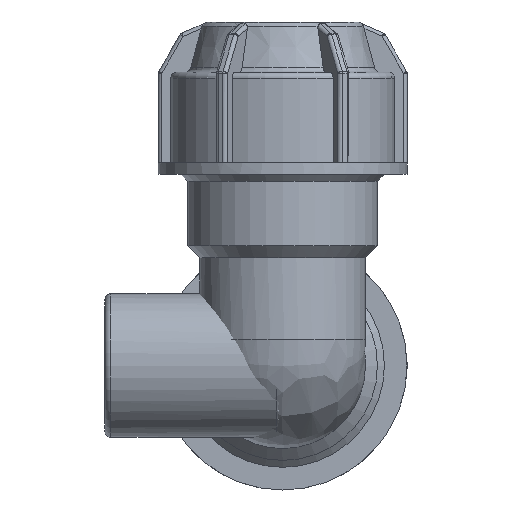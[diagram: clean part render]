
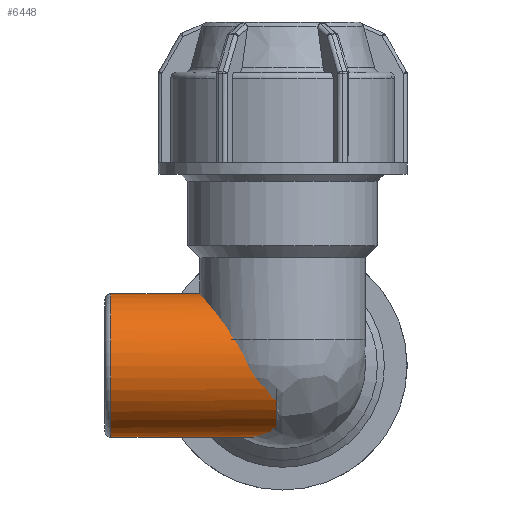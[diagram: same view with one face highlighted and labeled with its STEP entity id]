
A CAD part, left-side view. The second image highlights one B-rep face of the part: STEP entity #6448.
In plain terms, the highlighted cylindrical face has radius 12.11 mm (diameter 24.22 mm), a full revolution.
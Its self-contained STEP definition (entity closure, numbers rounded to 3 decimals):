
#1099=FACE_BOUND('',#1969,.T.);
#1517=FACE_OUTER_BOUND('',#1968,.T.);
#1968=EDGE_LOOP('',(#5889,#5890,#5891));
#1969=EDGE_LOOP('',(#5892));
#2326=CIRCLE('',#7217,12.11);
#2328=CIRCLE('',#7220,12.11);
#2522=B_SPLINE_CURVE_WITH_KNOTS('',3,(#12390,#12391,#12392,#12393,#12394,
#12395,#12396,#12397,#12398,#12399,#12400,#12401,#12402,#12403,#12404,#12405,
#12406,#12407,#12408,#12409),.UNSPECIFIED.,.F.,.F.,(4,2,2,2,2,2,2,2,2,4),
(2.911,2.988,3.165,3.52,3.868,
4.216,4.564,4.912,5.267,5.396),
 .UNSPECIFIED.);
#2525=B_SPLINE_CURVE_WITH_KNOTS('',3,(#12436,#12437,#12438,#12439,#12440,
#12441,#12442,#12443,#12444,#12445,#12446,#12447,#12448,#12449,#12450,#12451,
#12452,#12453,#12454,#12455),.UNSPECIFIED.,.F.,.F.,(4,2,2,2,2,2,2,2,2,4),
(0.225,0.355,0.709,1.057,
1.405,1.753,2.102,2.456,2.633,
2.711),.UNSPECIFIED.);
#3075=VERTEX_POINT('',#12387);
#3076=VERTEX_POINT('',#12389);
#3078=VERTEX_POINT('',#12425);
#3079=VERTEX_POINT('',#12471);
#4012=EDGE_CURVE('',#3076,#3075,#2522,.T.);
#4016=EDGE_CURVE('',#3075,#3078,#2525,.T.);
#4019=EDGE_CURVE('',#3079,#3079,#2326,.T.);
#4021=EDGE_CURVE('',#3076,#3078,#2328,.T.);
#5889=ORIENTED_EDGE('',*,*,#4016,.T.);
#5890=ORIENTED_EDGE('',*,*,#4021,.F.);
#5891=ORIENTED_EDGE('',*,*,#4012,.T.);
#5892=ORIENTED_EDGE('',*,*,#4019,.F.);
#6032=CYLINDRICAL_SURFACE('',#7219,12.11);
#6448=ADVANCED_FACE('',(#1517,#1099),#6032,.T.);
#7217=AXIS2_PLACEMENT_3D('',#12472,#9117,#9118);
#7219=AXIS2_PLACEMENT_3D('',#12475,#9121,#9122);
#7220=AXIS2_PLACEMENT_3D('',#12476,#9123,#9124);
#9117=DIRECTION('center_axis',(0.,1.,0.));
#9118=DIRECTION('ref_axis',(1.,0.,0.));
#9121=DIRECTION('center_axis',(0.,1.,0.));
#9122=DIRECTION('ref_axis',(-1.,0.,0.));
#9123=DIRECTION('center_axis',(0.,-1.,0.));
#9124=DIRECTION('ref_axis',(1.,0.,0.));
#12387=CARTESIAN_POINT('',(8.563,2.234,8.563));
#12389=CARTESIAN_POINT('',(-8.793,1.,8.327));
#12390=CARTESIAN_POINT('Ctrl Pts',(-8.793,1.,8.327));
#12391=CARTESIAN_POINT('Ctrl Pts',(-8.764,1.257,8.358));
#12392=CARTESIAN_POINT('Ctrl Pts',(-8.723,1.513,8.4));
#12393=CARTESIAN_POINT('Ctrl Pts',(-8.553,2.347,8.575));
#12394=CARTESIAN_POINT('Ctrl Pts',(-8.377,2.914,8.751));
#12395=CARTESIAN_POINT('Ctrl Pts',(-7.694,4.526,9.372));
#12396=CARTESIAN_POINT('Ctrl Pts',(-7.026,5.489,9.904));
#12397=CARTESIAN_POINT('Ctrl Pts',(-5.503,7.012,10.824));
#12398=CARTESIAN_POINT('Ctrl Pts',(-4.538,7.688,11.285));
#12399=CARTESIAN_POINT('Ctrl Pts',(-2.368,8.608,11.93));
#12400=CARTESIAN_POINT('Ctrl Pts',(-1.16,8.85,12.11));
#12401=CARTESIAN_POINT('Ctrl Pts',(1.16,8.85,12.11));
#12402=CARTESIAN_POINT('Ctrl Pts',(2.368,8.608,11.93));
#12403=CARTESIAN_POINT('Ctrl Pts',(4.538,7.688,11.285));
#12404=CARTESIAN_POINT('Ctrl Pts',(5.503,7.012,10.824));
#12405=CARTESIAN_POINT('Ctrl Pts',(7.026,5.489,9.904));
#12406=CARTESIAN_POINT('Ctrl Pts',(7.694,4.526,9.372));
#12407=CARTESIAN_POINT('Ctrl Pts',(8.315,3.059,8.807));
#12408=CARTESIAN_POINT('Ctrl Pts',(8.454,2.651,8.672));
#12409=CARTESIAN_POINT('Ctrl Pts',(8.563,2.234,8.563));
#12425=CARTESIAN_POINT('',(8.327,1.,-8.793));
#12436=CARTESIAN_POINT('Ctrl Pts',(8.563,2.234,8.563));
#12437=CARTESIAN_POINT('Ctrl Pts',(8.672,2.651,8.454));
#12438=CARTESIAN_POINT('Ctrl Pts',(8.807,3.059,8.315));
#12439=CARTESIAN_POINT('Ctrl Pts',(9.372,4.526,7.694));
#12440=CARTESIAN_POINT('Ctrl Pts',(9.904,5.489,7.026));
#12441=CARTESIAN_POINT('Ctrl Pts',(10.824,7.012,5.503));
#12442=CARTESIAN_POINT('Ctrl Pts',(11.285,7.688,4.538));
#12443=CARTESIAN_POINT('Ctrl Pts',(11.93,8.608,2.368));
#12444=CARTESIAN_POINT('Ctrl Pts',(12.11,8.85,1.16));
#12445=CARTESIAN_POINT('Ctrl Pts',(12.11,8.85,-1.16));
#12446=CARTESIAN_POINT('Ctrl Pts',(11.93,8.608,-2.368));
#12447=CARTESIAN_POINT('Ctrl Pts',(11.285,7.688,-4.538));
#12448=CARTESIAN_POINT('Ctrl Pts',(10.824,7.012,-5.503));
#12449=CARTESIAN_POINT('Ctrl Pts',(9.904,5.489,-7.026));
#12450=CARTESIAN_POINT('Ctrl Pts',(9.372,4.526,-7.694));
#12451=CARTESIAN_POINT('Ctrl Pts',(8.751,2.914,-8.377));
#12452=CARTESIAN_POINT('Ctrl Pts',(8.575,2.347,-8.553));
#12453=CARTESIAN_POINT('Ctrl Pts',(8.4,1.513,-8.723));
#12454=CARTESIAN_POINT('Ctrl Pts',(8.358,1.257,-8.764));
#12455=CARTESIAN_POINT('Ctrl Pts',(8.327,1.,-8.793));
#12471=CARTESIAN_POINT('',(-12.11,29.,0.));
#12472=CARTESIAN_POINT('Origin',(0.,29.,0.));
#12475=CARTESIAN_POINT('Origin',(0.,15.,0.));
#12476=CARTESIAN_POINT('Origin',(0.,1.,0.));
